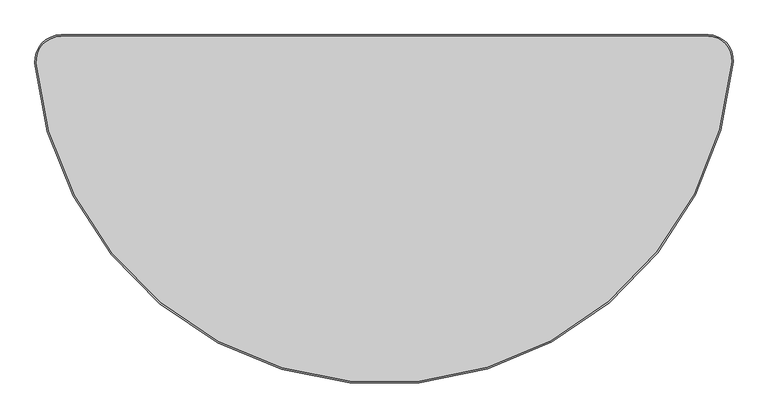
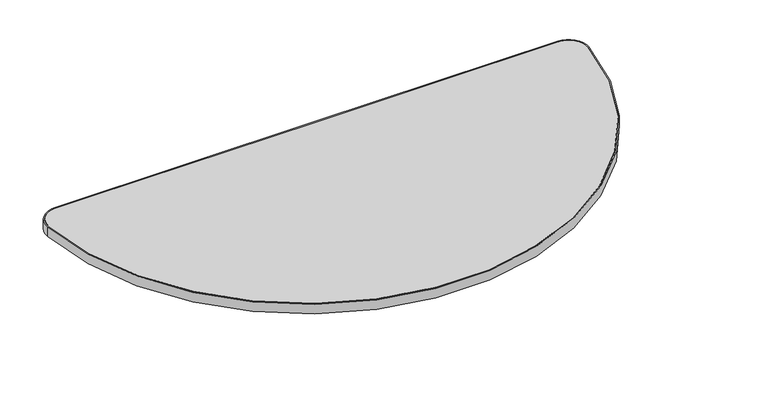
"""IFC4 building model written with IfcOpenShell, lengths in millimetres: furniture geometry, Steelcase - Groupwork - Table - Top - Half Round : 30D x 60W - HPL."""

import ifcopenshell
import ifcopenshell.guid

model = None  # the IFC model being written
_history = None  # IfcOwnerHistory: only IFC2X3 demands one
_inside = {}  # id of a spatial element -> (the spatial element, [elements in it])
_under = {}  # id of a project, library or spatial element -> (it, [spatial elements below it])
_declared = {}  # id of a project -> (the project, [libraries it declares])
_typed = {}  # id of a type object -> (the type object, [elements of that type])
_made_of = {}  # id of a material, layer set ... -> (it, [elements and type objects made of it])


def new_model(schema):
    """Start an empty IFC model of exactly this schema.

    Asked for "IFC4X3", IfcOpenShell would pick the latest addendum, in which some entities
    have other attributes; the version numbers below select the first issue.
    IFC2X3 requires an IfcOwnerHistory on every rooted entity: one is made here for all.
    """
    global model, _history
    if schema == "IFC4X3":
        model = ifcopenshell.file(schema_version=(4, 3, 0, 0))
    else:
        model = ifcopenshell.file(schema=schema)
    _inside.clear()
    _under.clear()
    _declared.clear()
    _typed.clear()
    _made_of.clear()
    _history = None
    if model.schema == "IFC2X3":
        org = make("IfcOrganization", Name="unknown")
        user = make(
            "IfcPersonAndOrganization",
            ThePerson=make("IfcPerson", FamilyName="unknown"),
            TheOrganization=org,
        )
        app = make(
            "IfcApplication",
            ApplicationDeveloper=org,
            Version="unknown",
            ApplicationFullName="unknown",
            ApplicationIdentifier="unknown",
        )
        _history = make(
            "IfcOwnerHistory",
            OwningUser=user,
            OwningApplication=app,
            ChangeAction="ADDED",
            CreationDate=0,
        )
    return model


def make(cls, **values):
    """One entity of the class cls with the attributes given. An attribute that is None is left unset."""
    return model.create_entity(
        cls, **{name: value for name, value in values.items() if value is not None}
    )


def rooted(cls, **values):
    """An entity with a GlobalId (a new one), such as an element, a storey or a relation."""
    return make(cls, GlobalId=ifcopenshell.guid.new(), OwnerHistory=_history, **values)


def si_unit(unit_type, name, prefix=None):
    """IfcSIUnit, for example si_unit("LENGTHUNIT", "METRE", prefix="MILLI")."""
    return make("IfcSIUnit", UnitType=unit_type, Prefix=prefix, Name=name)


def assignment(units):
    """IfcUnitAssignment: the units of a project."""
    return None if units is None else make("IfcUnitAssignment", Units=units)


def point(xyz):
    """IfcCartesianPoint."""
    return None if xyz is None else make("IfcCartesianPoint", Coordinates=xyz)


def direction(xyz):
    """IfcDirection."""
    return None if xyz is None else make("IfcDirection", DirectionRatios=xyz)


def frame(location, z_axis=None, x_axis=None):
    """IfcAxis2Placement3D, a coordinate frame: its origin and axes. An axis left out is left unset."""
    return make(
        "IfcAxis2Placement3D",
        Location=point(location),
        Axis=direction(z_axis),
        RefDirection=direction(x_axis),
    )


def frame_2d(location, x_axis=None):
    """IfcAxis2Placement2D, a coordinate frame in the plane: its origin and x axis."""
    return make(
        "IfcAxis2Placement2D", Location=point(location), RefDirection=direction(x_axis)
    )


def origin():
    """The frame at (0, 0, 0) with its axes left unset."""
    return frame((0.0, 0.0, 0.0))


def place(relative_to, where):
    """IfcLocalPlacement: puts the frame where relative to a parent placement (None: the world)."""
    return make(
        "IfcLocalPlacement", PlacementRelTo=relative_to, RelativePlacement=where
    )


def context(
    kind, dimensions, precision=None, world=None, true_north=None, identifier=None
):
    """IfcGeometricRepresentationContext, for example the 3D "Model" context."""
    return make(
        "IfcGeometricRepresentationContext",
        ContextIdentifier=identifier,
        ContextType=kind,
        CoordinateSpaceDimension=dimensions,
        Precision=precision,
        WorldCoordinateSystem=world,
        TrueNorth=true_north,
    )


def project(units=None, contexts=None):
    """IfcProject with its units and contexts."""
    return rooted(
        "IfcProject",
        Name="project",
        RepresentationContexts=contexts,
        UnitsInContext=assignment(units),
    )


def spatial(cls, under=None, at=None, **own):
    """A site, building, storey or space (cls), placed at a placement, below another one or the project."""
    s = rooted(cls, ObjectPlacement=at, **own)
    if under is not None:
        _under.setdefault(under.id(), (under, []))[1].append(s)
    return s


def polyline(points):
    """IfcPolyline through the points."""
    return make("IfcPolyline", Points=[point(p) for p in points])


def circle_curve(where, radius):
    """IfcCircle in the frame where."""
    return make("IfcCircle", Position=where, Radius=radius)


def trimmed(basis, trim1, trim2, sense, master):
    """IfcTrimmedCurve: the piece of a basis curve between two trims."""
    return make(
        "IfcTrimmedCurve",
        BasisCurve=basis,
        Trim1=trim1,
        Trim2=trim2,
        SenseAgreement=sense,
        MasterRepresentation=master,
    )


def segment(curve, same_sense, transition):
    """IfcCompositeCurveSegment."""
    return make(
        "IfcCompositeCurveSegment",
        Transition=transition,
        SameSense=same_sense,
        ParentCurve=curve,
    )


def composite_curve(segments, self_intersect=None):
    """IfcCompositeCurve: segments joined end to end."""
    return make("IfcCompositeCurve", Segments=segments, SelfIntersect=self_intersect)


def outline(outer, holes=None, kind="AREA"):
    """IfcArbitraryClosedProfileDef: a profile drawn as a closed curve; with holes, ...WithVoids."""
    if holes is None:
        return make("IfcArbitraryClosedProfileDef", ProfileType=kind, OuterCurve=outer)
    return make(
        "IfcArbitraryProfileDefWithVoids",
        ProfileType=kind,
        OuterCurve=outer,
        InnerCurves=holes,
    )


def extrude(swept, where, along, depth):
    """IfcExtrudedAreaSolid: the profile swept, set in the frame where, extruded along a direction by depth."""
    return make(
        "IfcExtrudedAreaSolid",
        SweptArea=swept,
        Position=where,
        ExtrudedDirection=direction(along),
        Depth=depth,
    )


def shape(context_of_items, identifier, shape_type, items):
    """IfcShapeRepresentation: the items that make up one representation, for example the "Body"."""
    return make(
        "IfcShapeRepresentation",
        ContextOfItems=context_of_items,
        RepresentationIdentifier=identifier,
        RepresentationType=shape_type,
        Items=items,
    )


def source(mapping_origin, context_of_items, identifier, shape_type, items):
    """IfcRepresentationMap: a shape defined once, which mapped items show again and again."""
    return make(
        "IfcRepresentationMap",
        MappingOrigin=mapping_origin,
        MappedRepresentation=shape(context_of_items, identifier, shape_type, items),
    )


def transform(
    local_origin,
    x_axis=None,
    y_axis=None,
    z_axis=None,
    scale=None,
    scale2=None,
    scale3=None,
    uniform=True,
):
    """IfcCartesianTransformationOperator3D, or its non-uniform kind. x_axis, y_axis, z_axis: its Axis1, 2, 3."""
    if uniform:
        return make(
            "IfcCartesianTransformationOperator3D",
            Axis1=direction(x_axis),
            Axis2=direction(y_axis),
            LocalOrigin=point(local_origin),
            Scale=scale,
            Axis3=direction(z_axis),
        )
    return make(
        "IfcCartesianTransformationOperator3DnonUniform",
        Axis1=direction(x_axis),
        Axis2=direction(y_axis),
        LocalOrigin=point(local_origin),
        Scale=scale,
        Axis3=direction(z_axis),
        Scale2=scale2,
        Scale3=scale3,
    )


def mapped(mapping_source, mapping_target):
    """IfcMappedItem: shows the shape of a source again, moved by a transform."""
    return make(
        "IfcMappedItem", MappingSource=mapping_source, MappingTarget=mapping_target
    )


def made_of(thing, what):
    """Note that an element or type object is made of a material, layer set ...; save() writes the relation."""
    if what is not None:
        _made_of.setdefault(what.id(), (what, []))[1].append(thing)
    return thing


def element(
    cls,
    number,
    at=None,
    inside=None,
    cuts=None,
    type_object=None,
    material=None,
    context=None,
    identifier="Body",
    shape_type=None,
    held_by="IfcProductDefinitionShape",
    body=None,
    shapes=None,
    **own,
):
    """One element of the class cls, such as IfcWall. Its Tag is "e" and its number.

    at: its placement. inside: the storey or other place that contains it. cuts: it is an
    opening in that element (IfcRelVoidsElement). A single representation is given by context,
    identifier, shape_type and body (its items); several are given by shapes. held_by: the class
    of the entity that holds the representations. save() writes the other relations.
    """
    e = rooted(cls, Tag="e%d" % number, ObjectPlacement=at, **own)
    if body is not None:
        shapes = [shape(context, identifier, shape_type, body)]
    if shapes is not None:
        e.Representation = make(held_by, Representations=shapes)
    if inside is not None:
        _inside.setdefault(inside.id(), (inside, []))[1].append(e)
    if cuts is not None:
        rooted(
            "IfcRelVoidsElement", RelatingBuildingElement=cuts, RelatedOpeningElement=e
        )
    if type_object is not None:
        _typed.setdefault(type_object.id(), (type_object, []))[1].append(e)
    return made_of(e, material)


def aggregate(whole, parts):
    """IfcRelAggregates: a whole, such as a stair, and the parts it consists of."""
    return rooted("IfcRelAggregates", RelatingObject=whole, RelatedObjects=parts)


def save(model, path):
    """Write the relations noted so far, then the file.

    IfcRelAggregates (storeys below a building ...), IfcRelContainedInSpatialStructure (elements
    in a storey), IfcRelDefinesByType, IfcRelAssociatesMaterial and IfcRelDeclares: one each for
    every whole, place, type object, material and project.
    """
    for whole, parts in _under.values():
        aggregate(whole, parts)
    for where, things in _inside.values():
        rooted(
            "IfcRelContainedInSpatialStructure",
            RelatedElements=things,
            RelatingStructure=where,
        )
    for kind, things in _typed.values():
        rooted("IfcRelDefinesByType", RelatedObjects=things, RelatingType=kind)
    for what, things in _made_of.values():
        rooted("IfcRelAssociatesMaterial", RelatedObjects=things, RelatingMaterial=what)
    for by, libraries in _declared.values():
        rooted("IfcRelDeclares", RelatingContext=by, RelatedDefinitions=libraries)
    model.write(path)


def furniture_707d9fb9(model_context):
    return source(origin(), model_context, "Body", "SweptSolid", [
        extrude(outline(composite_curve([segment(polyline([(-702.5292876, -0.254), (28.008022, -0.254), (705.4458209, -0.254)]), True, "CONTINUOUS"), segment(trimmed(circle_curve(frame_2d((705.4458209, -51.4075077)), 51.1535077), [point((705.4458209, -0.254))], [point((756.4476005, -55.3444901))], False, "CARTESIAN"), True, "CONTINUOUS"), segment(trimmed(circle_curve(frame_2d((0.0, 3.048)), 758.698), [point((756.4476005, -55.3444901))], [point((-756.1999936, -58.4680541))], False, "CARTESIAN"), True, "CONTINUOUS"), segment(trimmed(circle_curve(frame_2d((-702.5292876, -54.102)), 53.848), [point((-756.1999936, -58.4680541))], [point((-702.5292876, -0.254))], False, "CARTESIAN"), True, "CONTINUOUS")], self_intersect=False)), frame((0.0, 0.0, 695.579), z_axis=(0.0, 0.0, 1.0), x_axis=(1.0, 0.0, 0.0)), (0.0, 0.0, 1.0), 28.702),
        extrude(outline(composite_curve([segment(trimmed(circle_curve(frame_2d((-702.5292876, -54.102)), 57.15), [point((-759.4911218, -58.7357838))], [point((-702.5292876, 3.048))], False, "CARTESIAN"), True, "CONTINUOUS"), segment(polyline([(-702.5292876, 3.048), (28.008022, 3.048), (705.4458209, 3.048)]), True, "CONTINUOUS"), segment(trimmed(circle_curve(frame_2d((705.4458209, -51.4075077)), 54.4555077), [point((705.4458209, 3.048))], [point((759.7398063, -55.5986255))], False, "CARTESIAN"), True, "CONTINUOUS"), segment(trimmed(circle_curve(frame_2d((0.0, 3.048)), 762.0), [point((759.7398063, -55.5986255))], [point((-759.4911218, -58.7357838))], False, "CARTESIAN"), True, "CONTINUOUS")], self_intersect=False), holes=[composite_curve([segment(trimmed(circle_curve(frame_2d((-702.5292876, -54.102)), 53.848), [point((-702.5292876, -0.254))], [point((-756.1999936, -58.4680541))], True, "CARTESIAN"), True, "CONTINUOUS"), segment(trimmed(circle_curve(frame_2d((0.0, 3.048)), 758.698), [point((-756.1999936, -58.4680541))], [point((756.4476005, -55.3444901))], True, "CARTESIAN"), True, "CONTINUOUS"), segment(trimmed(circle_curve(frame_2d((705.4458209, -51.4075077)), 51.1535077), [point((756.4476005, -55.3444901))], [point((705.4458209, -0.254))], True, "CARTESIAN"), True, "CONTINUOUS"), segment(polyline([(705.4458209, -0.254), (28.008022, -0.254), (-702.5292876, -0.254)]), True, "CONTINUOUS")], self_intersect=False)]), frame((0.0, 0.0, 695.579), z_axis=(0.0, 0.0, 1.0), x_axis=(1.0, 0.0, 0.0)), (0.0, 0.0, 1.0), 28.702),
    ])


if __name__ == "__main__":
    model = new_model("IFC4")
    model_context = context("Model", 3, world=origin())
    ifc_project = project(units=[si_unit("LENGTHUNIT", "METRE", prefix="MILLI")], contexts=[model_context])
    site = spatial("IfcSite", under=ifc_project)
    building = spatial("IfcBuilding", under=site)
    placement = place(None, origin())
    furniture_shape = furniture_707d9fb9(model_context)
    element("IfcFurniture", 1, ObjectType="Steelcase - Groupwork - Table - Top - Half Round : 30D x 60W - HPL", at=placement, inside=building, context=model_context, shape_type="MappedRepresentation", body=[
        mapped(furniture_shape, transform((0.0, 0.0, 0.0), x_axis=(1.0, 0.0, 0.0), y_axis=(0.0, 1.0, 0.0), z_axis=(0.0, 0.0, 1.0))),
    ])
    save(model, "model.ifc")
